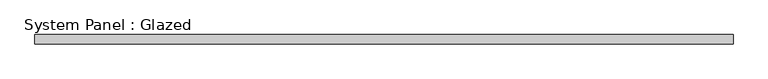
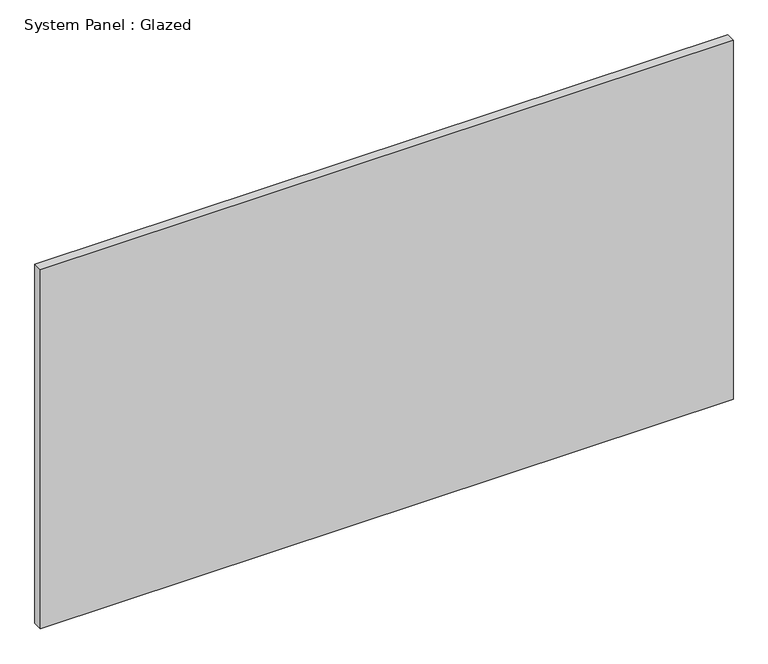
"""IFC4 building model written with IfcOpenShell, lengths in millimetres: plate geometry, System Panel : Glazed."""

from ifc_helpers import new_model, si_unit, origin, origin_with_axes, place, context, project, spatial, polyline, outline, extrude, source, transform, mapped, element, save


def system_panel_glazed_3bc3f474(model_context):
    return source(origin(), model_context, "Body", "SweptSolid", [
        extrude(outline(polyline([(912.5, 24.5), (-912.5, 24.5), (-912.5, 49.5), (912.5, 49.5), (912.5, 24.5)])), origin_with_axes(), (0.0, 0.0, 1.0), 1000.0),
    ])


if __name__ == "__main__":
    model = new_model("IFC4")
    model_context = context("Model", 3, world=origin())
    ifc_project = project(units=[si_unit("LENGTHUNIT", "METRE", prefix="MILLI")], contexts=[model_context])
    site = spatial("IfcSite", under=ifc_project)
    building = spatial("IfcBuilding", under=site)
    placement = place(None, origin())
    system_panel_glazed_shape = system_panel_glazed_3bc3f474(model_context)
    element("IfcPlate", 1, ObjectType="System Panel : Glazed", at=placement, inside=building, context=model_context, shape_type="MappedRepresentation", body=[
        mapped(system_panel_glazed_shape, transform((0.0, 0.0, 0.0), x_axis=(1.0, 0.0, 0.0), y_axis=(0.0, 1.0, 0.0), z_axis=(0.0, 0.0, 1.0))),
    ])
    save(model, "model.ifc")
